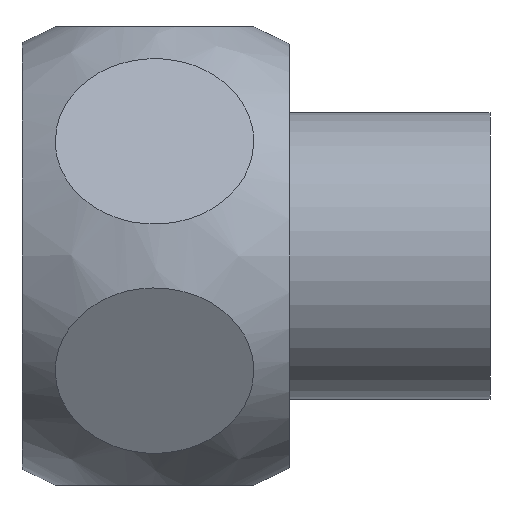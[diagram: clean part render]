
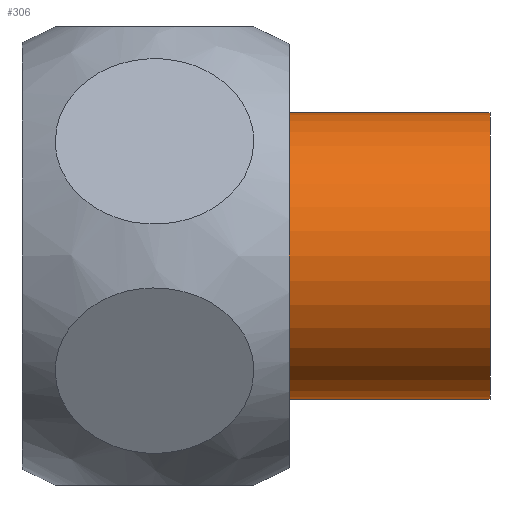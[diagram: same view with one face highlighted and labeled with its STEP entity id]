
A CAD part, front view. The second image highlights one B-rep face of the part: STEP entity #306.
In plain terms, the highlighted cylindrical face has radius 7.5 mm (diameter 15 mm), a full revolution.
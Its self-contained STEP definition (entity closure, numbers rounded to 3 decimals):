
#63=FACE_BOUND('',#114,.T.);
#86=FACE_OUTER_BOUND('',#113,.T.);
#113=EDGE_LOOP('',(#240));
#114=EDGE_LOOP('',(#241));
#159=CIRCLE('',#337,7.5);
#160=CIRCLE('',#339,7.5);
#180=VERTEX_POINT('',#495);
#181=VERTEX_POINT('',#498);
#208=EDGE_CURVE('',#180,#180,#159,.T.);
#209=EDGE_CURVE('',#181,#181,#160,.T.);
#240=ORIENTED_EDGE('',*,*,#209,.F.);
#241=ORIENTED_EDGE('',*,*,#208,.T.);
#297=CYLINDRICAL_SURFACE('',#338,7.5);
#306=ADVANCED_FACE('',(#86,#63),#297,.T.);
#337=AXIS2_PLACEMENT_3D('',#496,#394,#395);
#338=AXIS2_PLACEMENT_3D('',#497,#396,#397);
#339=AXIS2_PLACEMENT_3D('',#499,#398,#399);
#394=DIRECTION('center_axis',(1.,0.,0.));
#395=DIRECTION('ref_axis',(0.,1.,0.));
#396=DIRECTION('center_axis',(1.,0.,0.));
#397=DIRECTION('ref_axis',(0.,1.,0.));
#398=DIRECTION('center_axis',(1.,0.,0.));
#399=DIRECTION('ref_axis',(0.,1.,0.));
#495=CARTESIAN_POINT('',(3.,7.5,0.));
#496=CARTESIAN_POINT('Origin',(3.,0.,0.));
#497=CARTESIAN_POINT('Origin',(9.5,0.,0.));
#498=CARTESIAN_POINT('',(16.,7.5,0.));
#499=CARTESIAN_POINT('Origin',(16.,0.,0.));
